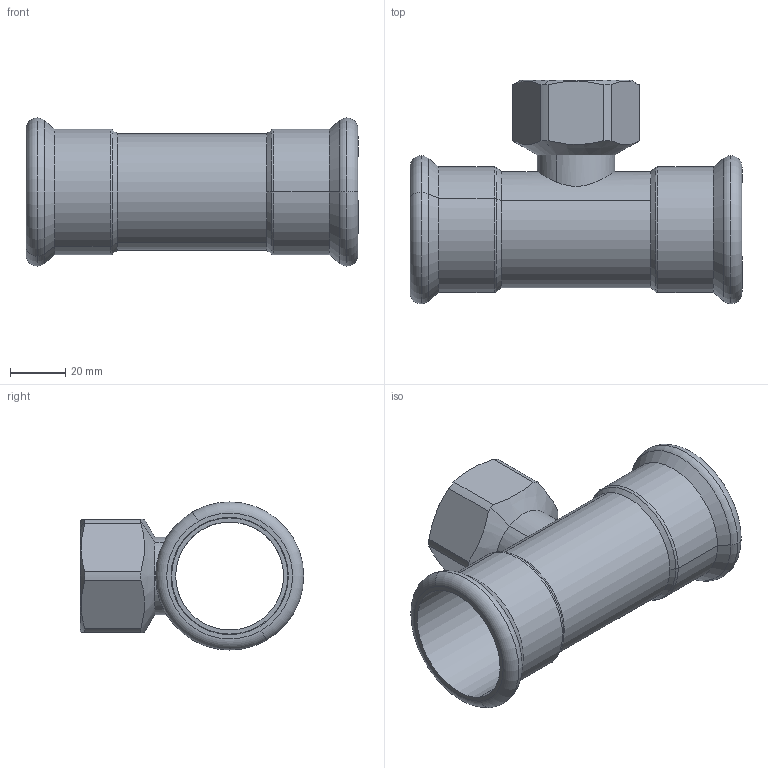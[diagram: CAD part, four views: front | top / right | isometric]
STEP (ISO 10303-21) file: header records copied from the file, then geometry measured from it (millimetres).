
FILE_DESCRIPTION(('CoCreate Modeling STEP Export'),'2;1');
FILE_NAME('C1418 42xRp1x42.stp','2014-11-12T15:04:54',(''),(''),'CoCreate Modeling STEP processor for AP214 (Solid Model)','CoCreate Modeling 17.00A 17-Jun-2010 (C) Parametric Technology GmbH','');
FILE_SCHEMA(('AUTOMOTIVE_DESIGN { 1 0 10303 214 1 1 1 1 }'));
Length unit declared in the file: millimetre
Products named in the file (2): C1418_42xRp1x42
Assembly tree (1 placements, depth 2):
  C1418_42xRp1x42
    C1418_42xRp1x42
Bounding box: 120 x 80.78 x 53.55 mm (x, y, z)
Volume: 48372.6 mm3; surface area: 42698.5 mm2
Topology: 1 solids, 1 shells, 66 faces, 158 edges, 99 vertices
Faces by surface type: cylinder 28, plane 14, torus 12, cone 12
Entity records: 3676 total; most frequent: CARTESIAN_POINT 2282, ORIENTED_EDGE 316, DIRECTION 240, EDGE_CURVE 158, VERTEX_POINT 99, AXIS2_PLACEMENT_3D 97, EDGE_LOOP 75, FACE_OUTER_BOUND 66
